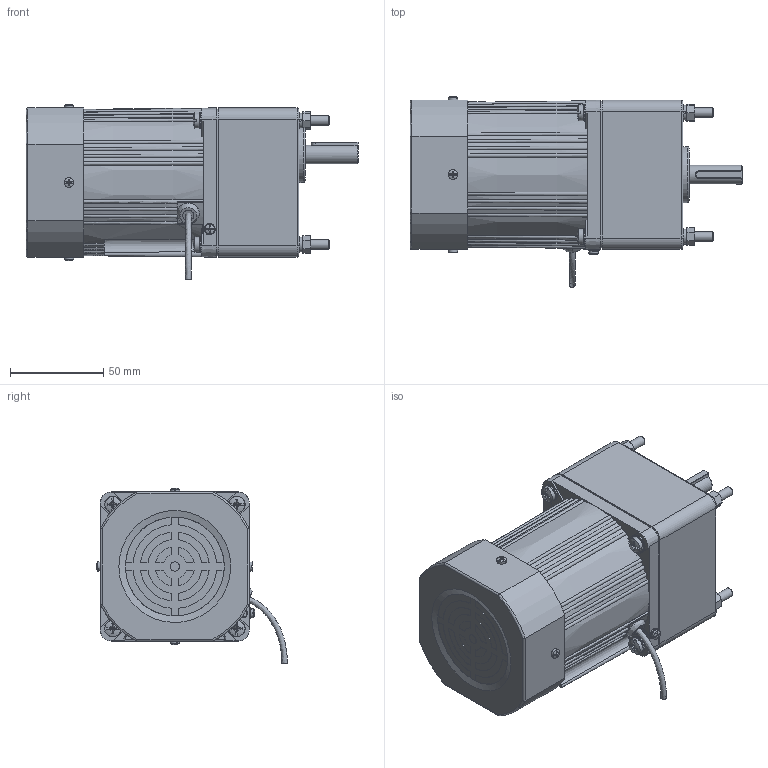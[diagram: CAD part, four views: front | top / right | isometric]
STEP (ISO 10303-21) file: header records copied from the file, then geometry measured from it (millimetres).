
FILE_DESCRIPTION(/* description */ (''),/* implementation_level */ '2;1');
FILE_NAME(/* name */ '4RK25-30CC·F-4GN25-750K-C·10T.stp',/* time_stamp */ '2024-11-02T14:54:41+08:00',/* author */ (''),/* organization */ (''),/* preprocessor_version */ 'ST-DEVELOPER v18.102',/* originating_system */ 'SIEMENS PLM Software NX 2027',/* authorisation */ '');
FILE_SCHEMA (('AP203_CONFIGURATION_CONTROLLED_3D_DESIGN_OF_MECHANICAL_PARTS_AND_ASSEMBLIES_MIM_LF { 1 0 10303 403 2 1 2}'));
Length unit declared in the file: millimetre
Products named in the file (1): 4RK25-30CC-4GN25-750K-C·10T_stp_YF803C9CA68Eb84m
Bounding box: 178 x 102.23 x 93.96 mm (x, y, z)
Volume: 820811.8 mm3; surface area: 93825.7 mm2
Topology: 20 solids, 20 shells, 1061 faces, 2799 edges, 1809 vertices
Faces by surface type: plane 369, bspline 310, cylinder 193, cone 121, torus 46, sphere 22
Full cylindrical faces by diameter (mm): 2.6 x1, 3.2 x1, 4 x1, 4.351 x4, 4.4 x1, 4.6 x4, 5 x6, 5.1 x5, 5.3 x8, 5.849 x1, 6 x10, 6.5 x4, 8.5 x4, 9 x8, 10 x1, 10.5 x1, 12 x1, 19 x1, 26 x1, 30 x1, 56 x1, 67 x1, 73 x1, 75 x2, 77.5 x1
Entity records: 39771 total; most frequent: CARTESIAN_POINT 16342, ORIENTED_EDGE 5226, DIRECTION 3384, EDGE_CURVE 2613, VERTEX_POINT 1749, AXIS2_PLACEMENT_3D 1374, B_SPLINE_CURVE_WITH_KNOTS 1353, EDGE_LOOP 1320
